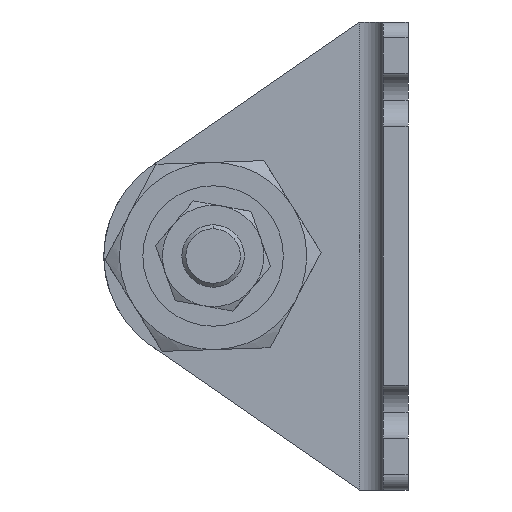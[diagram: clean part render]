
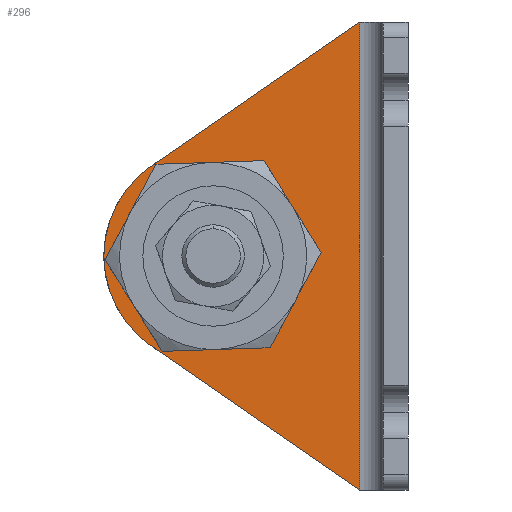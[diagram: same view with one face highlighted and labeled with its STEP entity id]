
A CAD part, left-side view. The second image highlights one B-rep face of the part: STEP entity #296.
In plain terms, the highlighted planar face has unit normal (-1, 0, 0) as drawn and (1, 0, 0) by its records, which use the part's own axes.
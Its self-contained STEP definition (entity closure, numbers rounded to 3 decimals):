
#34 = ORIENTED_EDGE ( 'NONE', *, *, #2575, .T. ) ;
#52 = CARTESIAN_POINT ( 'NONE',  ( 3.2, 6.2, 0. ) ) ;
#103 = DIRECTION ( 'NONE',  ( 0., 1., 0. ) ) ;
#155 = EDGE_CURVE ( 'NONE', #1308, #3053, #2767, .T. ) ;
#214 = DIRECTION ( 'NONE',  ( 1., 0., 0. ) ) ;
#232 = DIRECTION ( 'NONE',  ( 1., 0., 0. ) ) ;
#296 = ADVANCED_FACE ( 'NONE', ( #1022, #3970 ), #4041, .T. ) ;
#448 = CARTESIAN_POINT ( 'NONE',  ( 3.2, 25., -30. ) ) ;
#538 = VECTOR ( 'NONE', #2469, 1000. ) ;
#715 = EDGE_CURVE ( 'NONE', #2442, #3450, #775, .T. ) ;
#723 = CARTESIAN_POINT ( 'NONE',  ( 3.2, 39., -30. ) ) ;
#775 = CIRCLE ( 'NONE', #3890, 9.5 ) ;
#938 = CARTESIAN_POINT ( 'NONE',  ( 3.2, 25., -30. ) ) ;
#1016 = DIRECTION ( 'NONE',  ( 0., 0., -1. ) ) ;
#1022 = FACE_BOUND ( 'NONE', #3079, .T. ) ;
#1044 = CARTESIAN_POINT ( 'NONE',  ( 3.2, 32.956, -18.481 ) ) ;
#1085 = DIRECTION ( 'NONE',  ( 1., 0., 0. ) ) ;
#1144 = CARTESIAN_POINT ( 'NONE',  ( 3.2, 25., -30. ) ) ;
#1175 = AXIS2_PLACEMENT_3D ( 'NONE', #1144, #232, #1413 ) ;
#1193 = CARTESIAN_POINT ( 'NONE',  ( 3.2, 34.5, -30. ) ) ;
#1308 = VERTEX_POINT ( 'NONE', #723 ) ;
#1413 = DIRECTION ( 'NONE',  ( 0., 1., 0. ) ) ;
#1498 = CARTESIAN_POINT ( 'NONE',  ( 3.2, 6.2, -60. ) ) ;
#1560 = VERTEX_POINT ( 'NONE', #2968 ) ;
#1752 = DIRECTION ( 'NONE',  ( 0., 1., 0. ) ) ;
#1803 = DIRECTION ( 'NONE',  ( 0., 1., 0. ) ) ;
#1831 = LINE ( 'NONE', #1498, #2144 ) ;
#1894 = CARTESIAN_POINT ( 'NONE',  ( 3.2, 4.169, -61.403 ) ) ;
#1900 = ORIENTED_EDGE ( 'NONE', *, *, #2865, .T. ) ;
#1944 = VERTEX_POINT ( 'NONE', #52 ) ;
#1949 = VECTOR ( 'NONE', #3699, 1000. ) ;
#1960 = DIRECTION ( 'NONE',  ( 1., 0., 0. ) ) ;
#2144 = VECTOR ( 'NONE', #1016, 1000. ) ;
#2173 = ORIENTED_EDGE ( 'NONE', *, *, #2759, .T. ) ;
#2187 = ORIENTED_EDGE ( 'NONE', *, *, #155, .T. ) ;
#2200 = EDGE_CURVE ( 'NONE', #1944, #3053, #3983, .T. ) ;
#2442 = VERTEX_POINT ( 'NONE', #1193 ) ;
#2469 = DIRECTION ( 'NONE',  ( 0., 0.823, 0.568 ) ) ;
#2575 = EDGE_CURVE ( 'NONE', #1944, #1560, #1831, .T. ) ;
#2626 = CARTESIAN_POINT ( 'NONE',  ( 3.2, 25., -30. ) ) ;
#2759 = EDGE_CURVE ( 'NONE', #3962, #1308, #3978, .T. ) ;
#2767 = CIRCLE ( 'NONE', #1175, 14. ) ;
#2865 = EDGE_CURVE ( 'NONE', #1560, #3962, #3760, .T. ) ;
#2968 = CARTESIAN_POINT ( 'NONE',  ( 3.2, 6.2, -60. ) ) ;
#3053 = VERTEX_POINT ( 'NONE', #1044 ) ;
#3063 = AXIS2_PLACEMENT_3D ( 'NONE', #2626, #4287, #3066 ) ;
#3066 = DIRECTION ( 'NONE',  ( 0., 1., 0. ) ) ;
#3079 = EDGE_LOOP ( 'NONE', ( #3289, #3086 ) ) ;
#3086 = ORIENTED_EDGE ( 'NONE', *, *, #3894, .F. ) ;
#3223 = AXIS2_PLACEMENT_3D ( 'NONE', #938, #1085, #1752 ) ;
#3289 = ORIENTED_EDGE ( 'NONE', *, *, #715, .F. ) ;
#3345 = EDGE_LOOP ( 'NONE', ( #1900, #2173, #2187, #3396, #34 ) ) ;
#3396 = ORIENTED_EDGE ( 'NONE', *, *, #2200, .F. ) ;
#3450 = VERTEX_POINT ( 'NONE', #4133 ) ;
#3699 = DIRECTION ( 'NONE',  ( 0., 0.823, -0.568 ) ) ;
#3715 = CARTESIAN_POINT ( 'NONE',  ( 3.2, 32.956, -41.519 ) ) ;
#3760 = LINE ( 'NONE', #1894, #538 ) ;
#3827 = CARTESIAN_POINT ( 'NONE',  ( 3.2, 3.2, -60. ) ) ;
#3839 = CARTESIAN_POINT ( 'NONE',  ( 3.2, 32.226, -17.976 ) ) ;
#3890 = AXIS2_PLACEMENT_3D ( 'NONE', #448, #214, #1803 ) ;
#3894 = EDGE_CURVE ( 'NONE', #3450, #2442, #3987, .T. ) ;
#3962 = VERTEX_POINT ( 'NONE', #3715 ) ;
#3970 = FACE_OUTER_BOUND ( 'NONE', #3345, .T. ) ;
#3978 = CIRCLE ( 'NONE', #3223, 14. ) ;
#3983 = LINE ( 'NONE', #3839, #1949 ) ;
#3987 = CIRCLE ( 'NONE', #3063, 9.5 ) ;
#4041 = PLANE ( 'NONE',  #4175 ) ;
#4133 = CARTESIAN_POINT ( 'NONE',  ( 3.2, 15.5, -30. ) ) ;
#4175 = AXIS2_PLACEMENT_3D ( 'NONE', #3827, #1960, #103 ) ;
#4287 = DIRECTION ( 'NONE',  ( 1., 0., 0. ) ) ;
